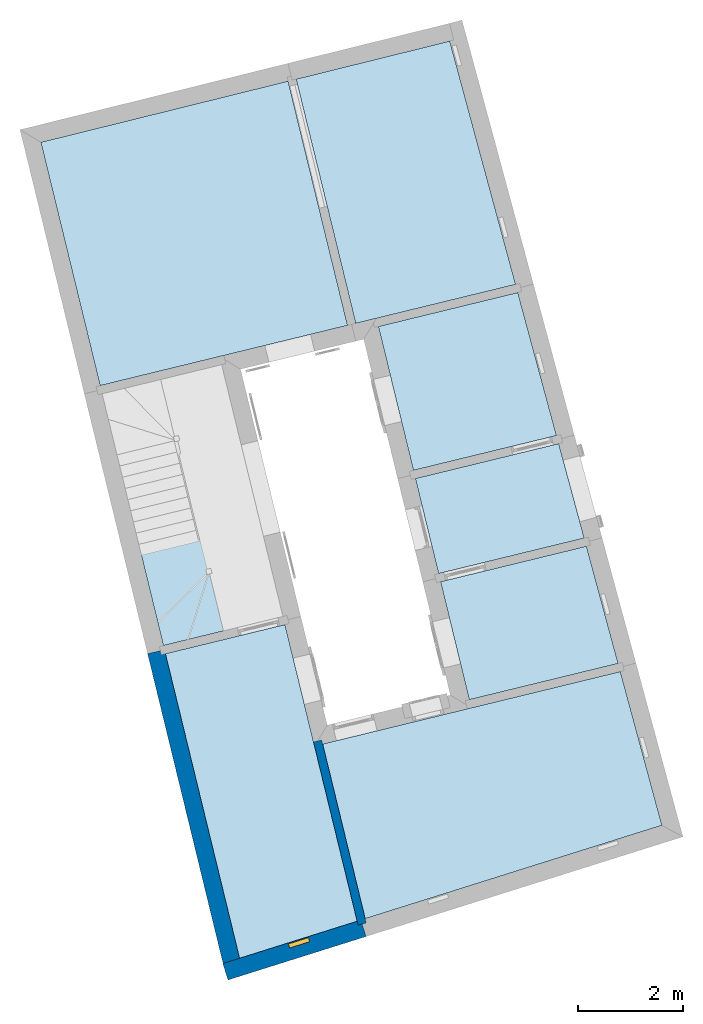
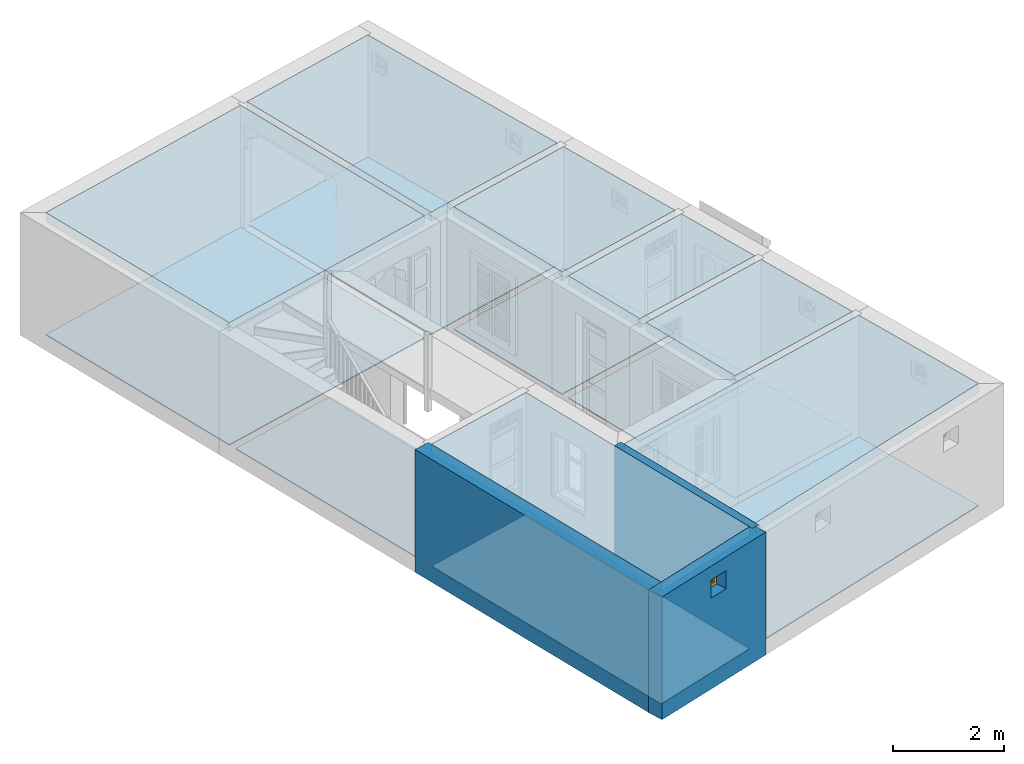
# One storey, part 1 of 15: 15 slabs, 3 walls, 1 window, 1 opening.
"""IFC4 building model written with IfcOpenShell, lengths in metres."""

from ifc_helpers import new_model, si_unit, frame, origin, origin_with_axes, place, context, subcontext, project, spatial, polyline, outline, extrude, faceted_brep, source, transform, mapped, material, layer, layer_set, layer_usage, type_object, type_shapes, element, fill, save


model = new_model("IFC4")

# Units and contexts
model_context = context("Model", 3, world=origin_with_axes())
body_context = subcontext(model_context, "Body", "Model", "MODEL_VIEW")
ifc_project = project(units=[si_unit("PLANEANGLEUNIT", "RADIAN"), si_unit("MASSUNIT", "GRAM", prefix="KILO"), si_unit("FORCEUNIT", "NEWTON", prefix="KILO"), si_unit("LENGTHUNIT", "METRE"), si_unit("AREAUNIT", "SQUARE_METRE"), si_unit("VOLUMEUNIT", "CUBIC_METRE")], contexts=[model_context, model_context])

# Site, building, storey
site_placement = place(None, origin_with_axes())
site = spatial("IfcSite", under=ifc_project, at=site_placement, Name="Site plot-4", CompositionType="ELEMENT")
building_placement = place(None, origin_with_axes())
building = spatial("IfcBuilding", under=site, at=building_placement, Name="Building plot-4", CompositionType="ELEMENT")
storey_placement = place(None, origin_with_axes())
storey = spatial("IfcBuildingStorey", under=building, at=storey_placement, Name="plot-4 0", CompositionType="ELEMENT", Elevation=0.0)

# Slabs
slab_1_placement = place(storey_placement, frame((27.8304490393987, 11.6155500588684, 2.5)))
element("IfcSlab", 1, at=slab_1_placement, inside=storey, Name="My Slab", ObjectType="Slab", PredefinedType="FLOOR", context=body_context, shape_type="SweptSolid", body=[
    extrude(outline(polyline([(0.0, 0.0), (-0.488232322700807, 1.80452169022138), (-3.22401112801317, 1.13829618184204), (-2.78183689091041, -0.677441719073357), (0.0, 0.0)])), origin_with_axes(), (0.0, 0.0, 1.0), 0.2),
])
slab_2_placement = place(storey_placement, frame((27.8304490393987, 11.6155500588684, 0.0)))
element("IfcSlab", 2, at=slab_2_placement, inside=storey, Name="My Slab", ObjectType="Slab", PredefinedType="FLOOR", context=body_context, shape_type="SweptSolid", body=[
    extrude(outline(polyline([(0.0, 0.0), (-0.488232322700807, 1.80452169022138), (-3.22401112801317, 1.13829618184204), (-2.78183689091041, -0.677441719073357), (0.0, 0.0)])), origin_with_axes(), (0.0, 0.0, 1.0), 0.02),
])
slab_3_placement = place(storey_placement, frame((24.5685805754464, 12.9093030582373, 2.5)))
element("IfcSlab", 3, at=slab_3_placement, inside=storey, Name="My Slab", ObjectType="Slab", PredefinedType="FLOOR", context=body_context, shape_type="SweptSolid", body=[
    extrude(outline(polyline([(0.0, 0.0), (2.7318354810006, 0.665265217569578), (1.9928873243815, 3.39644034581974), (-0.669238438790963, 2.74815105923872), (0.0, 0.0)])), origin_with_axes(), (0.0, 0.0, 1.0), 0.2),
])
slab_4_placement = place(storey_placement, frame((24.5685805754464, 12.9093030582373, 0.0)))
element("IfcSlab", 4, at=slab_4_placement, inside=storey, Name="My Slab", ObjectType="Slab", PredefinedType="FLOOR", context=body_context, shape_type="SweptSolid", body=[
    extrude(outline(polyline([(0.0, 0.0), (2.7318354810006, 0.665265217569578), (1.9928873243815, 3.39644034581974), (-0.669238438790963, 2.74815105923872), (0.0, 0.0)])), origin_with_axes(), (0.0, 0.0, 1.0), 0.02),
])
slab_5_placement = place(storey_placement, frame((22.3297005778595, 20.3816846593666, 2.5)))
element("IfcSlab", 5, at=slab_5_placement, inside=storey, Name="My Slab", ObjectType="Slab", PredefinedType="FLOOR", context=body_context, shape_type="SweptSolid", body=[
    extrude(outline(polyline([(0.0, 0.0), (1.13606950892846, -4.66513942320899), (4.18996666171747, -3.92144472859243), (2.93260132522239, 0.725816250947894), (0.0, 0.0)])), origin_with_axes(), (0.0, 0.0, 1.0), 0.2),
])
slab_6_placement = place(storey_placement, frame((22.3297005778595, 20.3816846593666, 0.0)))
element("IfcSlab", 6, at=slab_6_placement, inside=storey, Name="My Slab", ObjectType="Slab", PredefinedType="FLOOR", context=body_context, shape_type="SweptSolid", body=[
    extrude(outline(polyline([(0.0, 0.0), (1.13606950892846, -4.66513942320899), (4.18996666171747, -3.92144472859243), (2.93260132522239, 0.725816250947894), (0.0, 0.0)])), origin_with_axes(), (0.0, 0.0, 1.0), 0.02),
])
slab_7_placement = place(storey_placement, frame((22.1743857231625, 20.3432443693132, 2.5)))
element("IfcSlab", 7, at=slab_7_placement, inside=storey, Name="My Slab", ObjectType="Slab", PredefinedType="FLOOR", context=body_context, shape_type="SweptSolid", body=[
    extrude(outline(polyline([(0.0, 0.0), (-4.72148598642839, -1.16856363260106), (-3.58987403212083, -5.81539861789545), (1.13592754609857, -4.66455646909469), (0.0, 0.0)])), origin_with_axes(), (0.0, 0.0, 1.0), 0.2),
])
slab_8_placement = place(storey_placement, frame((22.1743857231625, 20.3432443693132, 0.0)))
element("IfcSlab", 8, at=slab_8_placement, inside=storey, Name="My Slab", ObjectType="Slab", PredefinedType="FLOOR", context=body_context, shape_type="SweptSolid", body=[
    extrude(outline(polyline([(0.0, 0.0), (-4.72148598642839, -1.16856363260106), (-3.58987403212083, -5.81539861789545), (1.13592754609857, -4.66455646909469), (0.0, 0.0)])), origin_with_axes(), (0.0, 0.0, 1.0), 0.02),
])
slab_9_placement = place(storey_placement, frame((19.7935242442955, 9.56317406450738, 0.0)))
element("IfcSlab", 9, at=slab_9_placement, inside=storey, Name="My Slab", ObjectType="Slab", PredefinedType="FLOOR", context=body_context, shape_type="SweptSolid", body=[
    extrude(outline(polyline([(0.0, 0.0), (2.28328997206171, 0.556033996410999), (1.11213475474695, 5.3652488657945), (-1.17115521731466, 4.80921486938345), (0.0, 0.0)])), origin_with_axes(), (0.0, 0.0, 1.0), 0.02),
])
slab_10_placement = place(storey_placement, frame((28.4781890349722, 9.2214831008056, 2.5)))
element("IfcSlab", 10, at=slab_10_placement, inside=storey, Name="My Slab", ObjectType="Slab", PredefinedType="FLOOR", context=body_context, shape_type="SweptSolid", body=[
    extrude(outline(polyline([(0.0, 0.0), (-0.605939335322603, 2.23957043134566), (-3.39171955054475, 1.56116842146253), (-2.84294235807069, -0.692322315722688), (0.0, 0.0)])), origin_with_axes(), (0.0, 0.0, 1.0), 0.2),
])
slab_11_placement = place(storey_placement, frame((28.4781890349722, 9.2214831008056, 0.0)))
element("IfcSlab", 11, at=slab_11_placement, inside=storey, Name="My Slab", ObjectType="Slab", PredefinedType="FLOOR", context=body_context, shape_type="SweptSolid", body=[
    extrude(outline(polyline([(0.0, 0.0), (-0.605939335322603, 2.23957043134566), (-3.39171955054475, 1.56116842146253), (-2.84294235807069, -0.692322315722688), (0.0, 0.0)])), origin_with_axes(), (0.0, 0.0, 1.0), 0.02),
])
slab_12_placement = place(storey_placement, frame((28.5199896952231, 9.06698657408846, 2.5)))
element("IfcSlab", 12, at=slab_12_placement, inside=storey, Name="My Slab", ObjectType="Slab", PredefinedType="FLOOR", context=body_context, shape_type="SweptSolid", body=[
    extrude(outline(polyline([(0.0, 0.0), (-5.68511200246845, -1.38445645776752), (-4.87283886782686, -4.71996312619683), (0.794484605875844, -2.9364395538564), (0.0, 0.0)])), origin_with_axes(), (0.0, 0.0, 1.0), 0.2),
])
slab_13_placement = place(storey_placement, frame((28.5199896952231, 9.06698657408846, 0.0)))
element("IfcSlab", 13, at=slab_13_placement, inside=storey, Name="My Slab", ObjectType="Slab", PredefinedType="FLOOR", context=body_context, shape_type="SweptSolid", body=[
    extrude(outline(polyline([(0.0, 0.0), (-5.68511200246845, -1.38445645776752), (-4.87283886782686, -4.71996312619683), (0.794484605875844, -2.9364395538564), (0.0, 0.0)])), origin_with_axes(), (0.0, 0.0, 1.0), 0.02),
])
slab_14_placement = place(storey_placement, frame((23.4941968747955, 4.29888838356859, 2.5)))
element("IfcSlab", 14, at=slab_14_placement, inside=storey, Name="My Slab", ObjectType="Slab", PredefinedType="FLOOR", context=body_context, shape_type="SweptSolid", body=[
    extrude(outline(polyline([(0.0, 0.0), (-1.37952532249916, 5.66486285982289), (-3.66281529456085, 5.10882886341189), (-2.24652885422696, -0.706989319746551), (0.0, 0.0)])), origin_with_axes(), (0.0, 0.0, 1.0), 0.2),
])
slab_15_placement = place(storey_placement, frame((23.4941968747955, 4.29888838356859, 0.0)))
element("IfcSlab", 15, at=slab_15_placement, inside=storey, Name="My Slab", ObjectType="Slab", PredefinedType="FLOOR", context=body_context, shape_type="SweptSolid", body=[
    extrude(outline(polyline([(0.0, 0.0), (-1.37952532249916, 5.66486285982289), (-3.66281529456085, 5.10882886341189), (-2.24652885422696, -0.706989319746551), (0.0, 0.0)])), origin_with_axes(), (0.0, 0.0, 1.0), 0.02),
])

# Wall, opening, window
ifc_material_1 = material(Name="Masonry")
ifc_layer_1 = layer(ifc_material_1, 0.33, ventilated=False)
ifc_layer_set_1 = layer_set([ifc_layer_1], Name="exterior_0.08_0.25")
ifc_layer_usage_1 = layer_usage(ifc_layer_set_1, "AXIS2", "POSITIVE", -0.25)
wall_type_1 = type_object("IfcWallType", Name="exterior_0.08_0.25", PredefinedType="SOLIDWALL", material=ifc_layer_set_1)
wall_1_placement = place(storey_placement, frame((21.1901610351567, 3.4899334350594, 0.0), z_axis=(0.0, 0.0, 1.0), x_axis=(0.953879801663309, 0.300188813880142, 0.0)))
wall_1 = element("IfcWall", 16, at=wall_1_placement, inside=storey, type_object=wall_type_1, material=ifc_layer_usage_1, Name="exterior", context=body_context, shape_type="SweptSolid", body=[
    extrude(outline(polyline([(-0.249999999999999, 0.0799999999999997), (-0.249999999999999, -0.25), (2.51549807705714, -0.25), (2.51549807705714, 0.0799999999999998), (-0.249999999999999, 0.0799999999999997)])), origin_with_axes(), (0.0, 0.0, 1.0), 2.7),
])
opening_placement = place(wall_1_placement, frame((1.05774903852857, 0.0, 2.0)))
opening = element("IfcOpeningElement", 17, at=opening_placement, cuts=wall_1, Name="My Opening", ObjectType="Opening", context=body_context, shape_type="SweptSolid", body=[
    extrude(outline(polyline([(0.0, -0.269999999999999), (0.4, -0.269999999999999), (0.400000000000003, 1.1), (2.44249065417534e-15, 1.1), (0.0, -0.269999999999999)])), origin_with_axes(), (0.0, 0.0, 1.0), 0.4),
])
window_type = type_object("IfcWindowType", Name="barred_window", PartitioningType="DOUBLE_PANEL_HORIZONTAL", PredefinedType="NOTDEFINED")
shared_shape = source(origin(), body_context, "Body", "Brep", [
    faceted_brep([(0.4, 0.25, 0.4), (0.0, 0.25, 0.4), (0.06, 0.25, 0.34), (0.34, 0.25, 0.34), (0.06, 0.33, 0.34), (0.34, 0.33, 0.34), (0.34, 0.25, 0.06), (0.4, 0.25, 0.0), (0.4, 0.33, 0.4), (0.0, 0.33, 0.4), (0.0, 0.25, 0.0), (0.06, 0.25, 0.06), (0.06, 0.33, 0.06), (0.34, 0.33, 0.06), (0.4, 0.33, 0.0), (0.0, 0.33, 0.0), (0.136152, 0.28, 0.08), (0.08, 0.28, 0.08), (0.06, 0.28, 0.06), (0.136152, 0.28, 0.06), (0.136152, 0.29, 0.08), (0.08, 0.29, 0.08), (0.06, 0.28, 0.136152), (0.08, 0.28, 0.136152), (0.06, 0.29, 0.06), (0.136152, 0.29, 0.06), (0.170294, 0.28, 0.08), (0.170294, 0.28, 0.06), (0.136152, 0.28, 0.136152), (0.136152, 0.29, 0.136152), (0.08, 0.29, 0.136152), (0.06, 0.29, 0.136152), (0.08, 0.28, 0.170294), (0.06, 0.28, 0.170294), (0.170294, 0.29, 0.06), (0.229706, 0.28, 0.08), (0.229706, 0.28, 0.06), (0.156152, 0.28, 0.094142), (0.156152, 0.28, 0.136152), (0.185858, 0.28, 0.123848), (0.185858, 0.29, 0.123848), (0.156152, 0.29, 0.094142), (0.156152, 0.29, 0.136152), (0.229706, 0.29, 0.08), (0.170294, 0.29, 0.08), (0.2, 0.28, 0.109706), (0.2, 0.29, 0.109706), (0.06, 0.29, 0.170294), (0.094142, 0.28, 0.156152), (0.08, 0.28, 0.229706), (0.06, 0.28, 0.229706), (0.229706, 0.29, 0.06), (0.263848, 0.28, 0.08), (0.263848, 0.28, 0.06), (0.156152, 0.28, 0.156152), (0.136152, 0.28, 0.156152), (0.173553, 0.28, 0.136152), (0.173553, 0.29, 0.136152), (0.156152, 0.29, 0.156152), (0.136152, 0.29, 0.156152), (0.094142, 0.29, 0.156152), (0.08, 0.29, 0.170294), (0.06, 0.29, 0.229706), (0.123848, 0.28, 0.185858), (0.109706, 0.28, 0.2), (0.08, 0.29, 0.229706), (0.08, 0.28, 0.263848), (0.06, 0.28, 0.263848), (0.263848, 0.29, 0.06), (0.2, 0.28, 0.13799), (0.214142, 0.28, 0.123848), (0.34, 0.28, 0.06), (0.32, 0.28, 0.08), (0.181838, 0.28, 0.156152), (0.136152, 0.28, 0.173553), (0.156152, 0.28, 0.181838), (0.181838, 0.29, 0.156152), (0.2, 0.29, 0.13799), (0.214142, 0.29, 0.123848), (0.136152, 0.29, 0.173553), (0.156152, 0.29, 0.181838), (0.243848, 0.28, 0.094142), (0.243848, 0.29, 0.094142), (0.263848, 0.28, 0.136152), (0.263848, 0.29, 0.08), (0.263848, 0.29, 0.136152), (0.32, 0.29, 0.08), (0.243848, 0.28, 0.136152), (0.243848, 0.29, 0.136152), (0.06, 0.29, 0.263848), (0.123848, 0.29, 0.185858), (0.13799, 0.28, 0.2), (0.123848, 0.28, 0.214142), (0.109706, 0.29, 0.2), (0.094142, 0.28, 0.243848), (0.08, 0.28, 0.32), (0.06, 0.28, 0.34), (0.34, 0.29, 0.06), (0.218162, 0.28, 0.156152), (0.226447, 0.28, 0.136152), (0.34, 0.28, 0.229706), (0.32, 0.28, 0.229706), (0.32, 0.28, 0.170294), (0.32, 0.28, 0.136152), (0.218162, 0.29, 0.156152), (0.226447, 0.29, 0.136152), (0.13799, 0.29, 0.2), (0.32, 0.29, 0.136152), (0.08, 0.29, 0.263848), (0.06, 0.29, 0.34), (0.136152, 0.28, 0.226447), (0.156152, 0.28, 0.218162), (0.094142, 0.29, 0.243848), (0.123848, 0.29, 0.214142), (0.136152, 0.28, 0.243848), (0.136152, 0.28, 0.263848), (0.08, 0.29, 0.32), (0.136152, 0.28, 0.34), (0.136152, 0.28, 0.32), (0.34, 0.29, 0.229706), (0.243848, 0.28, 0.156152), (0.263848, 0.28, 0.156152), (0.34, 0.28, 0.263848), (0.32, 0.28, 0.263848), (0.32, 0.29, 0.229706), (0.32, 0.29, 0.170294), (0.290294, 0.28, 0.2), (0.276152, 0.28, 0.185858), (0.305858, 0.28, 0.156152), (0.243848, 0.29, 0.156152), (0.263848, 0.29, 0.156152), (0.305858, 0.29, 0.156152), (0.276152, 0.29, 0.185858), (0.290294, 0.29, 0.2), (0.136152, 0.29, 0.34), (0.136152, 0.29, 0.226447), (0.156152, 0.29, 0.218162), (0.156152, 0.28, 0.243848), (0.136152, 0.29, 0.243848), (0.156152, 0.28, 0.263848), (0.136152, 0.29, 0.263848), (0.136152, 0.29, 0.32), (0.170294, 0.28, 0.32), (0.170294, 0.28, 0.34), (0.34, 0.29, 0.263848), (0.243848, 0.28, 0.181838), (0.263848, 0.28, 0.173553), (0.34, 0.28, 0.34), (0.32, 0.28, 0.32), (0.305858, 0.28, 0.243848), (0.276152, 0.28, 0.214142), (0.26201, 0.28, 0.2), (0.243848, 0.29, 0.181838), (0.263848, 0.29, 0.173553), (0.26201, 0.29, 0.2), (0.276152, 0.29, 0.214142), (0.32, 0.29, 0.263848), (0.170294, 0.29, 0.34), (0.156152, 0.29, 0.243848), (0.173553, 0.28, 0.263848), (0.181838, 0.28, 0.243848), (0.156152, 0.28, 0.305858), (0.229706, 0.28, 0.32), (0.229706, 0.28, 0.34), (0.34, 0.29, 0.34), (0.263848, 0.28, 0.34), (0.263848, 0.28, 0.32), (0.32, 0.29, 0.32), (0.263848, 0.28, 0.263848), (0.263848, 0.28, 0.243848), (0.305858, 0.29, 0.243848), (0.263848, 0.28, 0.226447), (0.243848, 0.28, 0.218162), (0.243848, 0.29, 0.218162), (0.263848, 0.29, 0.226447), (0.156152, 0.29, 0.263848), (0.170294, 0.29, 0.32), (0.229706, 0.29, 0.34), (0.181838, 0.29, 0.243848), (0.173553, 0.29, 0.263848), (0.185858, 0.28, 0.276152), (0.2, 0.28, 0.26201), (0.156152, 0.29, 0.305858), (0.229706, 0.29, 0.32), (0.263848, 0.29, 0.34), (0.263848, 0.29, 0.32), (0.263848, 0.29, 0.263848), (0.243848, 0.28, 0.243848), (0.243848, 0.28, 0.263848), (0.263848, 0.29, 0.243848), (0.243848, 0.29, 0.243848), (0.2, 0.29, 0.26201), (0.185858, 0.29, 0.276152), (0.214142, 0.28, 0.276152), (0.218162, 0.28, 0.243848), (0.226447, 0.28, 0.263848), (0.243848, 0.28, 0.305858), (0.2, 0.28, 0.290294), (0.2, 0.29, 0.290294), (0.243848, 0.29, 0.263848), (0.218162, 0.29, 0.243848), (0.214142, 0.29, 0.276152), (0.226447, 0.29, 0.263848), (0.243848, 0.29, 0.305858)], [[[0, 1, 2, 3]], [[3, 2, 4, 5]], [[3, 6, 7, 0]], [[1, 0, 8, 9]], [[1, 10, 11, 2]], [[2, 11, 12, 4]], [[9, 8, 5, 4]], [[6, 3, 5, 13]], [[6, 11, 10, 7]], [[0, 7, 14, 8]], [[10, 1, 9, 15]], [[11, 6, 13, 12]], [[4, 12, 15, 9]], [[8, 14, 13, 5]], [[7, 10, 15, 14]], [[12, 13, 14, 15]], [[16, 17, 18, 19]], [[17, 16, 20, 21]], [[22, 18, 17, 23]], [[19, 18, 24, 25]], [[26, 16, 19, 27]], [[16, 28, 29, 20]], [[21, 20, 25, 24]], [[23, 17, 21, 30]], [[18, 22, 31, 24]], [[23, 32, 33, 22]], [[27, 19, 25, 34]], [[35, 26, 27, 36]], [[28, 16, 37, 38]], [[37, 39, 40, 41]], [[38, 37, 41, 42]], [[20, 29, 42, 41]], [[26, 35, 43, 44]], [[45, 26, 44, 46]], [[20, 44, 34, 25]], [[28, 23, 30, 29]], [[24, 31, 30, 21]], [[22, 33, 47, 31]], [[48, 32, 23]], [[32, 49, 50, 33]], [[36, 27, 34, 51]], [[39, 37, 26, 45]], [[52, 35, 36, 53]], [[38, 54, 55, 28]], [[39, 56, 57, 40]], [[41, 40, 46, 44]], [[56, 38, 42, 57]], [[58, 42, 29, 59]], [[35, 45, 46, 43]], [[44, 43, 51, 34]], [[23, 28, 55, 48]], [[29, 30, 60, 59]], [[61, 30, 31, 47]], [[33, 50, 62, 47]], [[48, 63, 64, 32]], [[49, 32, 61, 65]], [[49, 66, 67, 50]], [[53, 36, 51, 68]], [[69, 39, 45, 70]], [[53, 71, 72, 52]], [[73, 54, 38, 56]], [[74, 55, 54, 75]], [[56, 39, 69, 73]], [[40, 57, 76, 77]], [[40, 77, 78, 46]], [[58, 76, 57, 42]], [[59, 79, 80, 58]], [[45, 35, 81, 70]], [[43, 46, 78, 82]], [[83, 52, 84, 85]], [[82, 84, 43]], [[52, 72, 86, 84]], [[43, 84, 68, 51]], [[44, 20, 41]], [[70, 81, 82, 78]], [[81, 87, 88, 82]], [[48, 55, 59, 60]], [[61, 60, 30]], [[65, 61, 47, 62]], [[50, 67, 89, 62]], [[63, 48, 60, 90]], [[63, 91, 92, 64]], [[32, 64, 93, 61]], [[64, 49, 65, 93]], [[94, 66, 49]], [[66, 95, 96, 67]], [[71, 53, 68, 97]], [[98, 69, 70, 99]], [[81, 52, 83, 87]], [[72, 71, 100]], [[100, 101, 102]], [[103, 72, 100]], [[100, 102, 103]], [[54, 73, 76, 58]], [[55, 74, 79, 59]], [[75, 54, 58, 80]], [[63, 74, 75, 91]], [[73, 69, 77, 76]], [[77, 104, 105, 78]], [[79, 90, 106, 80]], [[84, 82, 88, 85]], [[103, 83, 85, 107]], [[72, 103, 107, 86]], [[97, 68, 84, 86]], [[99, 70, 78, 105]], [[87, 99, 105, 88]], [[90, 60, 61, 93]], [[108, 65, 62, 89]], [[67, 96, 109, 89]], [[74, 63, 90, 79]], [[110, 92, 91, 111]], [[49, 64, 92, 94]], [[93, 65, 112, 113]], [[94, 114, 115, 66]], [[95, 66, 108, 116]], [[117, 96, 95, 118]], [[100, 71, 97, 119]], [[69, 98, 104, 77]], [[99, 87, 120, 98]], [[87, 83, 121, 120]], [[101, 100, 122, 123]], [[102, 101, 124, 125]], [[121, 83, 103]], [[103, 102, 126]], [[126, 127, 128]], [[128, 121, 103]], [[103, 126, 128]], [[91, 75, 80, 106]], [[88, 105, 104, 129]], [[106, 90, 93, 113]], [[85, 88, 129, 130]], [[107, 85, 130]], [[131, 132, 133]], [[107, 130, 131]], [[133, 125, 107]], [[107, 131, 133]], [[124, 119, 97]], [[97, 86, 107]], [[107, 125, 124]], [[97, 107, 124]], [[108, 112, 65]], [[116, 108, 89, 109]], [[96, 117, 134, 109]], [[92, 110, 135, 113]], [[111, 91, 106, 136]], [[114, 110, 111, 137]], [[94, 92, 113, 112]], [[114, 94, 112, 138]], [[114, 137, 139, 115]], [[66, 115, 140, 108]], [[118, 95, 116, 141]], [[118, 142, 143, 117]], [[122, 100, 119, 144]], [[98, 120, 129, 104]], [[145, 120, 121, 146]], [[122, 147, 148, 123]], [[123, 149, 101]], [[101, 126, 133, 124]], [[126, 102, 125, 133]], [[127, 126, 150, 151]], [[128, 127, 132, 131]], [[121, 128, 131, 130]], [[113, 135, 136, 106]], [[129, 152, 153, 130]], [[133, 132, 154, 155]], [[119, 124, 156, 144]], [[138, 112, 108, 140]], [[109, 134, 141, 116]], [[117, 143, 157, 134]], [[110, 114, 138, 135]], [[137, 111, 136, 158]], [[159, 139, 137, 160]], [[118, 115, 139, 161]], [[115, 118, 141, 140]], [[161, 142, 118]], [[162, 163, 143, 142]], [[147, 122, 144, 164]], [[120, 145, 152, 129]], [[146, 121, 130, 153]], [[146, 127, 151, 145]], [[147, 165, 166, 148]], [[123, 148, 167, 156]], [[149, 123, 168, 169]], [[149, 150, 126, 101]], [[155, 170, 124, 133]], [[151, 150, 171, 172]], [[127, 146, 153, 132]], [[135, 138, 158, 136]], [[132, 153, 152, 154]], [[155, 154, 173, 174]], [[170, 156, 124]], [[164, 144, 156, 167]], [[158, 138, 140, 175]], [[176, 141, 134, 157]], [[143, 163, 177, 157]], [[160, 137, 158, 178]], [[139, 159, 179, 175]], [[180, 159, 160, 181]], [[161, 139, 175, 182]], [[140, 141, 182, 175]], [[166, 165, 163, 162]], [[162, 142, 176, 183]], [[165, 147, 164, 184]], [[145, 151, 154, 152]], [[148, 166, 185, 167]], [[156, 186, 168, 123]], [[187, 169, 168, 188]], [[149, 169, 189, 170]], [[150, 149, 170, 155]], [[171, 150, 155, 174]], [[171, 169, 187, 172]], [[151, 172, 173, 154]], [[189, 174, 173, 190]], [[156, 170, 189, 186]], [[184, 164, 167, 185]], [[175, 179, 178, 158]], [[176, 182, 141]], [[177, 183, 176, 157]], [[163, 165, 184, 177]], [[181, 160, 178, 191]], [[159, 180, 192, 179]], [[180, 161, 182, 192]], [[193, 181, 194, 195]], [[196, 162, 197, 193]], [[180, 197, 142, 161]], [[197, 180, 181, 193]], [[142, 197, 198, 176]], [[162, 196, 166]], [[35, 52, 81]], [[197, 162, 183, 198]], [[185, 166, 168, 186]], [[196, 188, 168, 166]], [[187, 188, 195, 194]], [[169, 171, 174, 189]], [[172, 187, 190, 173]], [[189, 190, 199, 186]], [[184, 185, 183, 177]], [[179, 192, 191, 178]], [[176, 198, 192, 182]], [[194, 181, 191, 200]], [[191, 192, 198, 201]], [[26, 37, 16]], [[193, 195, 202, 201]], [[196, 193, 201, 203]], [[191, 201, 202, 200]], [[183, 203, 201, 198]], [[188, 196, 203, 199]], [[203, 183, 185]], [[199, 203, 185, 186]], [[195, 188, 199, 202]], [[187, 194, 200, 190]], [[199, 190, 200, 202]]]),
])
type_shapes(window_type, [shared_shape])
window_placement = place(storey_placement, frame((22.2801774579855, 3.54991031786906, 2.0), z_axis=(0.0, 0.0, 1.0), x_axis=(0.381551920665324, 0.120075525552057, 0.0)))
window = element("IfcWindow", 18, at=window_placement, inside=storey, type_object=window_type, Name="bedroom street window", OverallHeight=0.4, OverallWidth=0.4, context=body_context, shape_type="MappedRepresentation", body=[
    mapped(shared_shape, transform((0.0, 0.0, 0.0), scale=1.0)),
])
fill(opening, window)

# Walls
ifc_material_2 = material(Name="Masonry")
ifc_layer_2 = layer(ifc_material_2, 0.33, ventilated=False)
ifc_layer_set_2 = layer_set([ifc_layer_2], Name="party_0.08_0.25")
ifc_layer_usage_2 = layer_usage(ifc_layer_set_2, "AXIS2", "POSITIVE", -0.25)
wall_type_2 = type_object("IfcWallType", Name="party_0.08_0.25", PredefinedType="SOLIDWALL", material=ifc_layer_set_2)
wall_2_placement = place(storey_placement, frame((19.7347245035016, 9.46651698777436, 0.0), z_axis=(0.0, 0.0, 1.0), x_axis=(0.236608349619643, -0.971605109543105, 0.0)))
element("IfcWall", 19, at=wall_2_placement, inside=storey, type_object=wall_type_2, material=ifc_layer_usage_2, Name="party", context=body_context, shape_type="SweptSolid", body=[
    extrude(outline(polyline([(1.24834837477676e-15, 0.0799999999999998), (-3.15454872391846e-15, -0.249999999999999), (6.15124755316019, -0.25), (6.15124755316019, 0.0800000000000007), (1.24834837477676e-15, 0.0799999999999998)])), origin_with_axes(), (0.0, 0.0, 1.0), 2.7),
])
ifc_material_3 = material(Name="Masonry")
ifc_layer_3 = layer(ifc_material_3, 0.16, ventilated=False)
ifc_layer_set_3 = layer_set([ifc_layer_3], Name="interior_0.08_0.08")
ifc_layer_usage_3 = layer_usage(ifc_layer_set_3, "AXIS2", "POSITIVE", -0.08)
wall_type_3 = type_object("IfcWallType", Name="interior_0.08_0.08", PredefinedType="SOLIDWALL", material=ifc_layer_set_3)
wall_3_placement = place(storey_placement, frame((22.7382206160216, 7.74132985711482, 0.0), z_axis=(0.0, 0.0, 1.0), x_axis=(0.236608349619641, -0.971605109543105, 0.0)))
element("IfcWall", 20, at=wall_3_placement, inside=storey, type_object=wall_type_3, material=ifc_layer_usage_3, Name="interior", context=body_context, shape_type="SweptSolid", body=[
    extrude(outline(polyline([(2.00297839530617e-16, 0.08), (-2.27858582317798e-16, -0.08), (3.59844962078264, -0.08), (3.59844962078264, 0.08), (2.00297839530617e-16, 0.08)])), origin_with_axes(), (0.0, 0.0, 1.0), 2.7),
])

save(model, "model.ifc")
